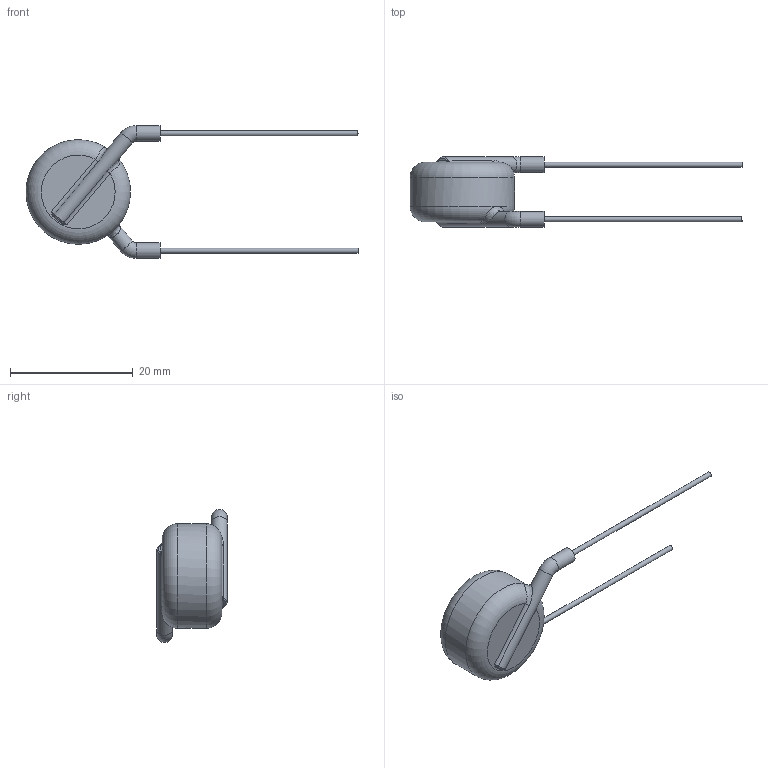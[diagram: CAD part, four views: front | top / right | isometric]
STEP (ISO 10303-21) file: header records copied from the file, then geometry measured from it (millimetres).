
FILE_DESCRIPTION((''),'2;1');
FILE_NAME('I:\Marketing\M6t1\3D-Models\Zchng-Werk-3\Upload for homepage\Ceramite\Y5R-15kV\615R150GAT50\615R150GAT50.stp','2015-08-28T12:22:10',(''),(''),'Autodesk Inventor 2013','Autodesk Inventor 2013','');
FILE_SCHEMA(('AUTOMOTIVE_DESIGN { 1 0 10303 214 1 1 1 1 }'));
Length unit declared in the file: centimetre
Products named in the file (1): 615R150GAT50
Bounding box: 54 x 11.43 x 21.63 mm (x, y, z)
Volume: 2245.3 mm3; surface area: 1188.4 mm2
Topology: 1 solids, 1 shells, 37 faces, 83 edges, 46 vertices
Faces by surface type: cylinder 13, torus 10, plane 8, bspline 6
Full cylindrical faces by diameter (mm): 0.81 x2, 2.53 x4, 17 x1
Entity records: 1293 total; most frequent: CARTESIAN_POINT 516, DIRECTION 152, ORIENTED_EDGE 124, AXIS2_PLACEMENT_3D 70, EDGE_CURVE 62, EDGE_LOOP 50, VERTEX_POINT 40, CIRCLE 38
